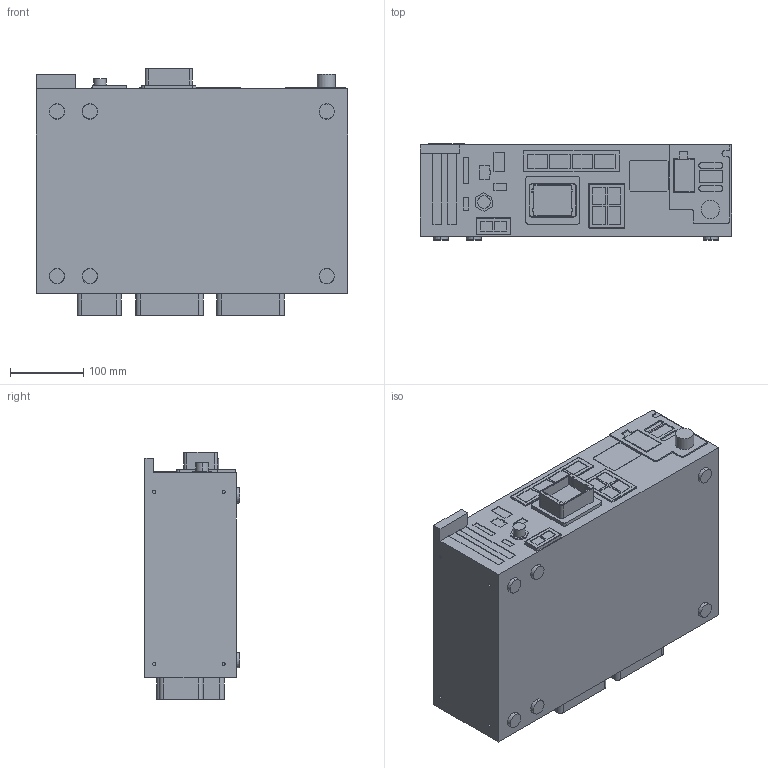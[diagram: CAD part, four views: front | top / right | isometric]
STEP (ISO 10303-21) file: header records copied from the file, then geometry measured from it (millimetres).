
FILE_DESCRIPTION (( 'STEP AP214' ), '1' );
FILE_NAME ('TRC-Micro(YRC1000micro)-v2 model.STEP', '2020-12-28T01:24:15', ( '' ), ( '' ), 'SwSTEP 2.0', 'SolidWorks 2018', '' );
FILE_SCHEMA (( 'AUTOMOTIVE_DESIGN' ));
Length unit declared in the file: millimetre
Products named in the file (1): TRC-Micro(YRC1000micro)-v2 model
Bounding box: 425 x 131 x 338 mm (x, y, z)
Volume: 15623065.1 mm3; surface area: 465058.6 mm2
Topology: 1 solids, 1 shells, 412 faces, 1041 edges, 670 vertices
Faces by surface type: plane 237, cylinder 145, cone 12, sphere 10, torus 8
Entity records: 12479 total; most frequent: DIRECTION 2161, CARTESIAN_POINT 2132, ORIENTED_EDGE 2062, EDGE_CURVE 1031, AXIS2_PLACEMENT_3D 723, VECTOR 715, LINE 715, VERTEX_POINT 670
